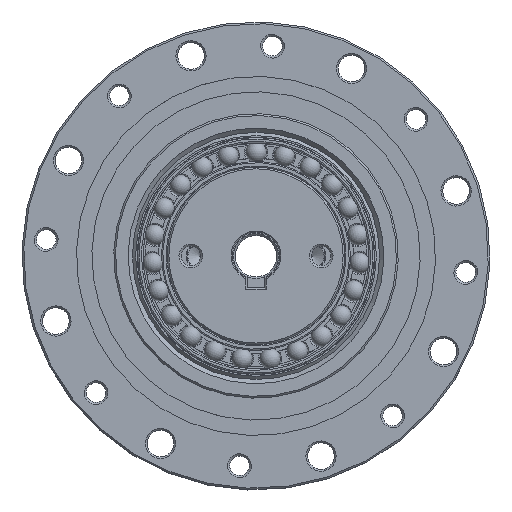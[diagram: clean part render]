
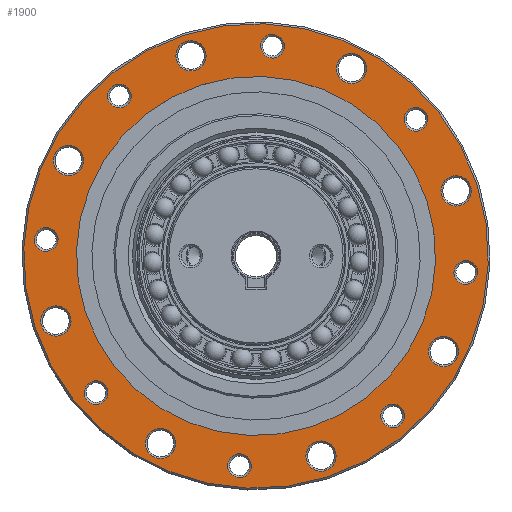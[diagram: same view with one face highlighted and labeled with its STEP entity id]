
A CAD part, top view. The second image highlights one B-rep face of the part: STEP entity #1900.
In plain terms, the highlighted planar face has unit normal (0, 0, 1).
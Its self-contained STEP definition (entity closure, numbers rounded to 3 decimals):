
#1900=ADVANCED_FACE('',(#2853,#2854,#2855,#2856,#2857,#2858,#2859,#2860,
#2861,#2862,#2863,#2864,#2865,#2866,#2867,#2868,#2869,#2870),#2376,.T.);
#2376=PLANE('',#9234);
#2853=FACE_BOUND('',#3779,.T.);
#2854=FACE_BOUND('',#3780,.T.);
#2855=FACE_BOUND('',#3781,.T.);
#2856=FACE_BOUND('',#3782,.T.);
#2857=FACE_BOUND('',#3783,.T.);
#2858=FACE_BOUND('',#3784,.T.);
#2859=FACE_BOUND('',#3785,.T.);
#2860=FACE_BOUND('',#3786,.T.);
#2861=FACE_BOUND('',#3787,.T.);
#2862=FACE_BOUND('',#3788,.T.);
#2863=FACE_BOUND('',#3789,.T.);
#2864=FACE_BOUND('',#3790,.T.);
#2865=FACE_BOUND('',#3791,.T.);
#2866=FACE_BOUND('',#3792,.T.);
#2867=FACE_BOUND('',#3793,.T.);
#2868=FACE_BOUND('',#3794,.T.);
#2869=FACE_BOUND('',#3795,.T.);
#2870=FACE_BOUND('',#3796,.T.);
#3779=EDGE_LOOP('',(#4857));
#3780=EDGE_LOOP('',(#4858));
#3781=EDGE_LOOP('',(#4859));
#3782=EDGE_LOOP('',(#4860));
#3783=EDGE_LOOP('',(#4861));
#3784=EDGE_LOOP('',(#4862));
#3785=EDGE_LOOP('',(#4863));
#3786=EDGE_LOOP('',(#4864));
#3787=EDGE_LOOP('',(#4865));
#3788=EDGE_LOOP('',(#4866));
#3789=EDGE_LOOP('',(#4867));
#3790=EDGE_LOOP('',(#4868));
#3791=EDGE_LOOP('',(#4869));
#3792=EDGE_LOOP('',(#4870));
#3793=EDGE_LOOP('',(#4871));
#3794=EDGE_LOOP('',(#4872));
#3795=EDGE_LOOP('',(#4873));
#3796=EDGE_LOOP('',(#4874));
#4857=ORIENTED_EDGE('',*,*,#7413,.T.);
#4858=ORIENTED_EDGE('',*,*,#7414,.T.);
#4859=ORIENTED_EDGE('',*,*,#7415,.T.);
#4860=ORIENTED_EDGE('',*,*,#7416,.T.);
#4861=ORIENTED_EDGE('',*,*,#7417,.T.);
#4862=ORIENTED_EDGE('',*,*,#7418,.T.);
#4863=ORIENTED_EDGE('',*,*,#7419,.T.);
#4864=ORIENTED_EDGE('',*,*,#7420,.T.);
#4865=ORIENTED_EDGE('',*,*,#7421,.T.);
#4866=ORIENTED_EDGE('',*,*,#7422,.T.);
#4867=ORIENTED_EDGE('',*,*,#7423,.T.);
#4868=ORIENTED_EDGE('',*,*,#7424,.T.);
#4869=ORIENTED_EDGE('',*,*,#7425,.T.);
#4870=ORIENTED_EDGE('',*,*,#7426,.T.);
#4871=ORIENTED_EDGE('',*,*,#7427,.T.);
#4872=ORIENTED_EDGE('',*,*,#7428,.T.);
#4873=ORIENTED_EDGE('',*,*,#7429,.T.);
#4874=ORIENTED_EDGE('',*,*,#7412,.F.);
#6602=VERTEX_POINT('',#13552);
#6603=VERTEX_POINT('',#13555);
#6604=VERTEX_POINT('',#13557);
#6605=VERTEX_POINT('',#13559);
#6606=VERTEX_POINT('',#13561);
#6607=VERTEX_POINT('',#13563);
#6608=VERTEX_POINT('',#13565);
#6609=VERTEX_POINT('',#13567);
#6610=VERTEX_POINT('',#13569);
#6611=VERTEX_POINT('',#13571);
#6612=VERTEX_POINT('',#13573);
#6613=VERTEX_POINT('',#13575);
#6614=VERTEX_POINT('',#13577);
#6615=VERTEX_POINT('',#13579);
#6616=VERTEX_POINT('',#13581);
#6617=VERTEX_POINT('',#13583);
#6618=VERTEX_POINT('',#13585);
#6619=VERTEX_POINT('',#13587);
#7412=EDGE_CURVE('',#6602,#6602,#8370,.T.);
#7413=EDGE_CURVE('',#6603,#6603,#8371,.T.);
#7414=EDGE_CURVE('',#6604,#6604,#8372,.T.);
#7415=EDGE_CURVE('',#6605,#6605,#8373,.T.);
#7416=EDGE_CURVE('',#6606,#6606,#8374,.T.);
#7417=EDGE_CURVE('',#6607,#6607,#8375,.T.);
#7418=EDGE_CURVE('',#6608,#6608,#8376,.T.);
#7419=EDGE_CURVE('',#6609,#6609,#8377,.T.);
#7420=EDGE_CURVE('',#6610,#6610,#8378,.T.);
#7421=EDGE_CURVE('',#6611,#6611,#8379,.T.);
#7422=EDGE_CURVE('',#6612,#6612,#8380,.T.);
#7423=EDGE_CURVE('',#6613,#6613,#8381,.T.);
#7424=EDGE_CURVE('',#6614,#6614,#8382,.T.);
#7425=EDGE_CURVE('',#6615,#6615,#8383,.T.);
#7426=EDGE_CURVE('',#6616,#6616,#8384,.T.);
#7427=EDGE_CURVE('',#6617,#6617,#8385,.T.);
#7428=EDGE_CURVE('',#6618,#6618,#8386,.T.);
#7429=EDGE_CURVE('',#6619,#6619,#8387,.T.);
#8370=CIRCLE('',#9215,39.2);
#8371=CIRCLE('',#9217,2.55);
#8372=CIRCLE('',#9218,2.);
#8373=CIRCLE('',#9219,2.55);
#8374=CIRCLE('',#9220,2.);
#8375=CIRCLE('',#9221,2.55);
#8376=CIRCLE('',#9222,2.);
#8377=CIRCLE('',#9223,2.55);
#8378=CIRCLE('',#9224,2.);
#8379=CIRCLE('',#9225,2.55);
#8380=CIRCLE('',#9226,2.);
#8381=CIRCLE('',#9227,2.55);
#8382=CIRCLE('',#9228,2.);
#8383=CIRCLE('',#9229,2.55);
#8384=CIRCLE('',#9230,2.);
#8385=CIRCLE('',#9231,2.55);
#8386=CIRCLE('',#9232,2.);
#8387=CIRCLE('',#9233,30.3);
#9215=AXIS2_PLACEMENT_3D('',#13551,#10888,#10889);
#9217=AXIS2_PLACEMENT_3D('',#13554,#10892,#10893);
#9218=AXIS2_PLACEMENT_3D('',#13556,#10894,#10895);
#9219=AXIS2_PLACEMENT_3D('',#13558,#10896,#10897);
#9220=AXIS2_PLACEMENT_3D('',#13560,#10898,#10899);
#9221=AXIS2_PLACEMENT_3D('',#13562,#10900,#10901);
#9222=AXIS2_PLACEMENT_3D('',#13564,#10902,#10903);
#9223=AXIS2_PLACEMENT_3D('',#13566,#10904,#10905);
#9224=AXIS2_PLACEMENT_3D('',#13568,#10906,#10907);
#9225=AXIS2_PLACEMENT_3D('',#13570,#10908,#10909);
#9226=AXIS2_PLACEMENT_3D('',#13572,#10910,#10911);
#9227=AXIS2_PLACEMENT_3D('',#13574,#10912,#10913);
#9228=AXIS2_PLACEMENT_3D('',#13576,#10914,#10915);
#9229=AXIS2_PLACEMENT_3D('',#13578,#10916,#10917);
#9230=AXIS2_PLACEMENT_3D('',#13580,#10918,#10919);
#9231=AXIS2_PLACEMENT_3D('',#13582,#10920,#10921);
#9232=AXIS2_PLACEMENT_3D('',#13584,#10922,#10923);
#9233=AXIS2_PLACEMENT_3D('',#13586,#10924,#10925);
#9234=AXIS2_PLACEMENT_3D('',#13588,#10926,#10927);
#10888=DIRECTION('',(0.,0.,-1.));
#10889=DIRECTION('',(-1.,0.,0.));
#10892=DIRECTION('',(0.,0.,-1.));
#10893=DIRECTION('',(1.,0.,0.));
#10894=DIRECTION('',(0.,0.,-1.));
#10895=DIRECTION('',(1.,0.,0.));
#10896=DIRECTION('',(0.,0.,-1.));
#10897=DIRECTION('',(1.,0.,0.));
#10898=DIRECTION('',(0.,0.,-1.));
#10899=DIRECTION('',(1.,0.,0.));
#10900=DIRECTION('',(0.,0.,-1.));
#10901=DIRECTION('',(1.,0.,0.));
#10902=DIRECTION('',(0.,0.,-1.));
#10903=DIRECTION('',(1.,0.,0.));
#10904=DIRECTION('',(0.,0.,-1.));
#10905=DIRECTION('',(1.,0.,0.));
#10906=DIRECTION('',(0.,0.,-1.));
#10907=DIRECTION('',(1.,0.,0.));
#10908=DIRECTION('',(0.,0.,-1.));
#10909=DIRECTION('',(1.,0.,0.));
#10910=DIRECTION('',(0.,0.,-1.));
#10911=DIRECTION('',(1.,0.,0.));
#10912=DIRECTION('',(0.,0.,-1.));
#10913=DIRECTION('',(1.,0.,0.));
#10914=DIRECTION('',(0.,0.,-1.));
#10915=DIRECTION('',(1.,0.,0.));
#10916=DIRECTION('',(0.,0.,-1.));
#10917=DIRECTION('',(1.,0.,0.));
#10918=DIRECTION('',(0.,0.,-1.));
#10919=DIRECTION('',(1.,0.,0.));
#10920=DIRECTION('',(0.,0.,-1.));
#10921=DIRECTION('',(1.,0.,0.));
#10922=DIRECTION('',(0.,0.,-1.));
#10923=DIRECTION('',(1.,0.,0.));
#10924=DIRECTION('',(0.,0.,-1.));
#10925=DIRECTION('',(-1.,0.,0.));
#10926=DIRECTION('',(0.,0.,1.));
#10927=DIRECTION('',(1.,0.,0.));
#13551=CARTESIAN_POINT('',(0.,0.,22.8));
#13552=CARTESIAN_POINT('',(-39.2,0.,22.8));
#13554=CARTESIAN_POINT('',(-25.102,25.102,22.8));
#13555=CARTESIAN_POINT('',(-22.552,25.102,22.8));
#13556=CARTESIAN_POINT('',(13.585,32.798,22.8));
#13557=CARTESIAN_POINT('',(15.585,32.798,22.8));
#13558=CARTESIAN_POINT('',(-35.5,0.,22.8));
#13559=CARTESIAN_POINT('',(-32.95,0.,22.8));
#13560=CARTESIAN_POINT('',(-13.585,32.798,22.8));
#13561=CARTESIAN_POINT('',(-11.585,32.798,22.8));
#13562=CARTESIAN_POINT('',(-25.102,-25.102,22.8));
#13563=CARTESIAN_POINT('',(-22.552,-25.102,22.8));
#13564=CARTESIAN_POINT('',(-32.798,13.585,22.8));
#13565=CARTESIAN_POINT('',(-30.798,13.585,22.8));
#13566=CARTESIAN_POINT('',(0.,-35.5,22.8));
#13567=CARTESIAN_POINT('',(2.55,-35.5,22.8));
#13568=CARTESIAN_POINT('',(-32.798,-13.585,22.8));
#13569=CARTESIAN_POINT('',(-30.798,-13.585,22.8));
#13570=CARTESIAN_POINT('',(25.102,-25.102,22.8));
#13571=CARTESIAN_POINT('',(27.652,-25.102,22.8));
#13572=CARTESIAN_POINT('',(-13.585,-32.798,22.8));
#13573=CARTESIAN_POINT('',(-11.585,-32.798,22.8));
#13574=CARTESIAN_POINT('',(35.5,0.,22.8));
#13575=CARTESIAN_POINT('',(38.05,0.,22.8));
#13576=CARTESIAN_POINT('',(13.585,-32.798,22.8));
#13577=CARTESIAN_POINT('',(15.585,-32.798,22.8));
#13578=CARTESIAN_POINT('',(25.102,25.102,22.8));
#13579=CARTESIAN_POINT('',(27.652,25.102,22.8));
#13580=CARTESIAN_POINT('',(32.798,-13.585,22.8));
#13581=CARTESIAN_POINT('',(34.798,-13.585,22.8));
#13582=CARTESIAN_POINT('',(0.,35.5,22.8));
#13583=CARTESIAN_POINT('',(2.55,35.5,22.8));
#13584=CARTESIAN_POINT('',(32.798,13.585,22.8));
#13585=CARTESIAN_POINT('',(34.798,13.585,22.8));
#13586=CARTESIAN_POINT('',(0.,0.,22.8));
#13587=CARTESIAN_POINT('',(-30.3,0.,22.8));
#13588=CARTESIAN_POINT('',(39.2,0.,22.8));
